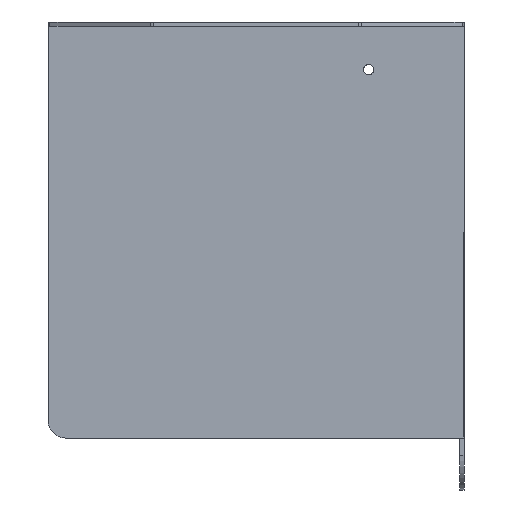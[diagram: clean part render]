
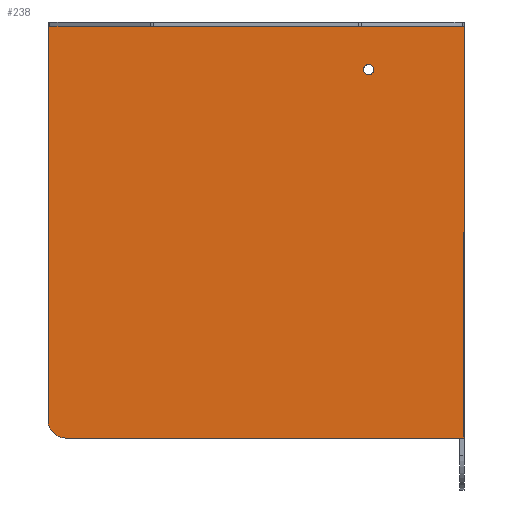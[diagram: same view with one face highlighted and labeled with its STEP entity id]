
A CAD part, left-side view. The second image highlights one B-rep face of the part: STEP entity #238.
In plain terms, the highlighted planar face has unit normal (-1, 0, 0).
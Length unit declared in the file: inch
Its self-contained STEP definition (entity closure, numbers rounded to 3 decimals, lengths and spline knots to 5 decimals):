
#57=FACE_BOUND('',#450,.T.);
#58=FACE_BOUND('',#451,.T.);
#176=CIRCLE('',#1517,0.2965);
#177=CIRCLE('',#1518,1.);
#238=ADVANCED_FACE('',(#57,#58),#307,.F.);
#307=PLANE('',#1519);
#450=EDGE_LOOP('',(#650));
#451=EDGE_LOOP('',(#651,#652,#653,#654,#655));
#650=ORIENTED_EDGE('',*,*,#1079,.T.);
#651=ORIENTED_EDGE('',*,*,#1073,.F.);
#652=ORIENTED_EDGE('',*,*,#1080,.T.);
#653=ORIENTED_EDGE('',*,*,#1068,.F.);
#654=ORIENTED_EDGE('',*,*,#1064,.F.);
#655=ORIENTED_EDGE('',*,*,#1075,.F.);
#918=VERTEX_POINT('',#2122);
#919=VERTEX_POINT('',#2123);
#922=VERTEX_POINT('',#2131);
#926=VERTEX_POINT('',#2140);
#927=VERTEX_POINT('',#2142);
#929=VERTEX_POINT('',#2153);
#1064=EDGE_CURVE('',#918,#919,#1232,.T.);
#1068=EDGE_CURVE('',#919,#922,#1236,.T.);
#1073=EDGE_CURVE('',#926,#927,#1241,.T.);
#1075=EDGE_CURVE('',#927,#918,#1243,.T.);
#1079=EDGE_CURVE('',#929,#929,#176,.T.);
#1080=EDGE_CURVE('',#926,#922,#177,.T.);
#1232=LINE('',#2121,#1370);
#1236=LINE('',#2130,#1374);
#1241=LINE('',#2141,#1379);
#1243=LINE('',#2145,#1381);
#1370=VECTOR('',#1731,1.);
#1374=VECTOR('',#1737,1.);
#1379=VECTOR('',#1744,1.);
#1381=VECTOR('',#1748,1.);
#1517=AXIS2_PLACEMENT_3D('',#2152,#1758,#1759);
#1518=AXIS2_PLACEMENT_3D('',#2154,#1760,#1761);
#1519=AXIS2_PLACEMENT_3D('',#2155,#1762,#1763);
#1731=DIRECTION('',(0.,0.,-1.));
#1737=DIRECTION('',(0.,1.,0.));
#1744=DIRECTION('',(0.,0.,1.));
#1748=DIRECTION('',(0.,-1.,0.));
#1758=DIRECTION('',(1.,0.,0.));
#1759=DIRECTION('',(0.,0.,-1.));
#1760=DIRECTION('',(-1.,0.,0.));
#1761=DIRECTION('',(0.,0.,-1.));
#1762=DIRECTION('',(1.,0.,0.));
#1763=DIRECTION('',(0.,0.,-1.));
#2121=CARTESIAN_POINT('',(-0.25,-0.25,0.));
#2122=CARTESIAN_POINT('',(-0.25,-0.25,0.));
#2123=CARTESIAN_POINT('',(-0.25,-0.25,-23.75));
#2130=CARTESIAN_POINT('',(-0.25,-0.25,-23.75));
#2131=CARTESIAN_POINT('',(-0.25,22.75,-23.75));
#2140=CARTESIAN_POINT('',(-0.25,23.75,-22.75));
#2141=CARTESIAN_POINT('',(-0.25,23.75,-23.75));
#2142=CARTESIAN_POINT('',(-0.25,23.75,0.));
#2145=CARTESIAN_POINT('',(-0.25,23.75,0.));
#2152=CARTESIAN_POINT('',(-0.25,5.25,-2.5));
#2153=CARTESIAN_POINT('',(-0.25,5.25,-2.7965));
#2154=CARTESIAN_POINT('',(-0.25,22.75,-22.75));
#2155=CARTESIAN_POINT('',(-0.25,-0.25,0.));
